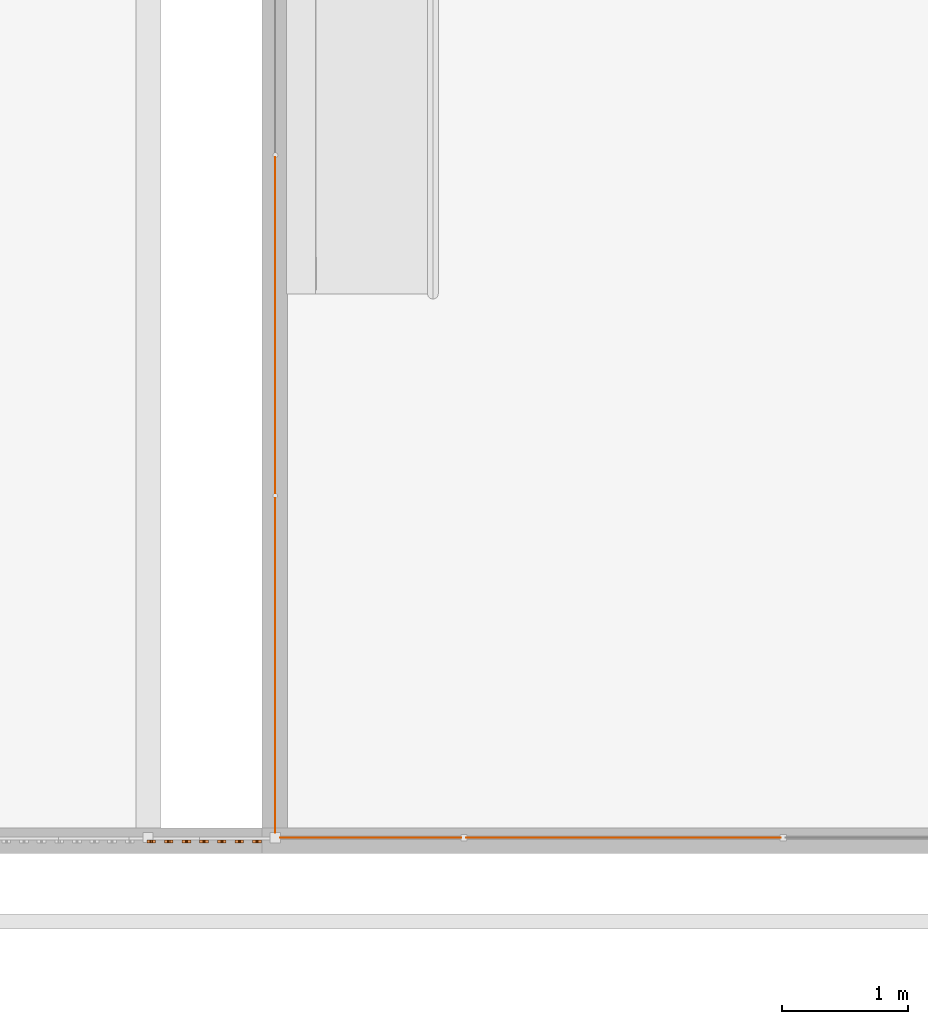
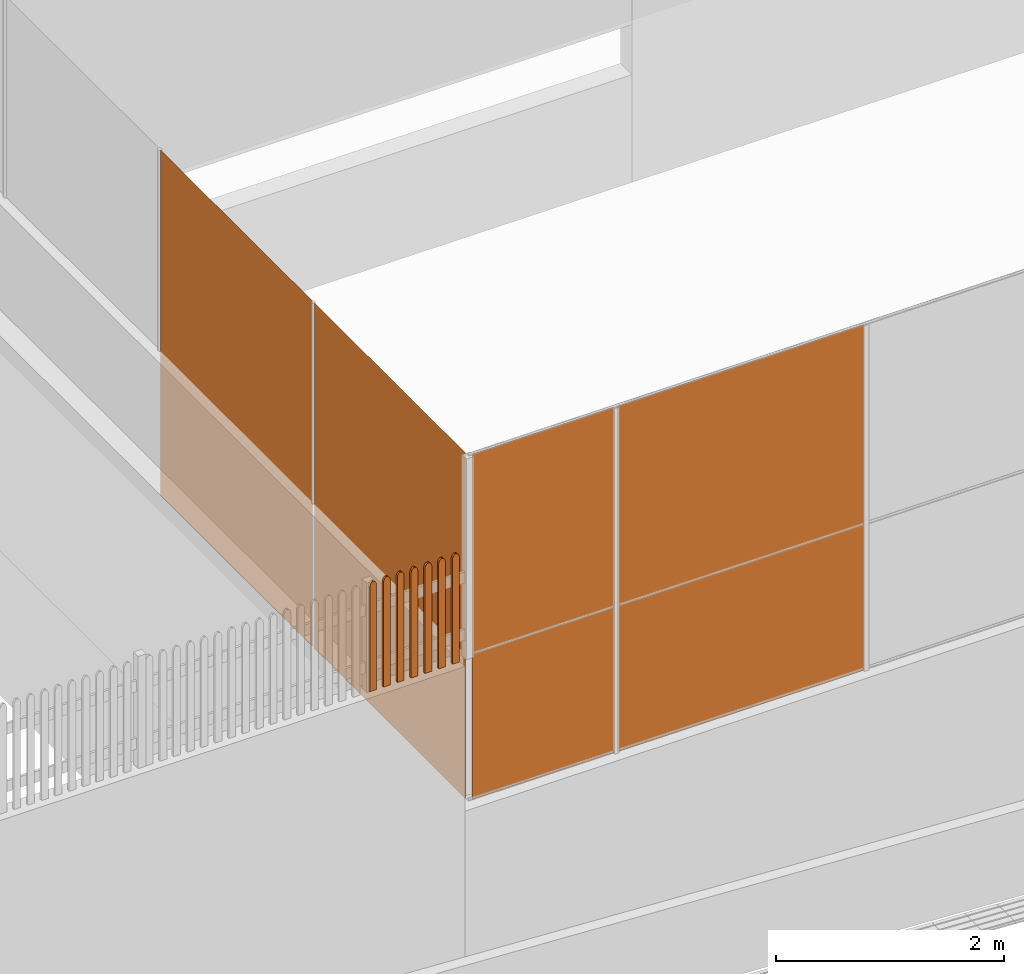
# One storey, part 210 of 237: 11 proxies.
"""IFC2X3 building model written with IfcOpenShell, lengths in millimetres."""

from ifc_helpers import new_model, entity, si_unit, converted_unit, derived_unit, money_unit, direction, frame, origin_with_axes, place, context, subcontext, project, spatial, open_shell, faceted_brep, surface_model, type_object, element, save


model = new_model("IFC2X3")

# Units and contexts
model_context = context("Model", 3, precision=0.01, world=origin_with_axes(), true_north=direction((0.0, 1.0)))
body_context = subcontext(model_context, "Body", "Model", "MODEL_VIEW")
ifc_project = project(units=[si_unit("LENGTHUNIT", "METRE", prefix="MILLI"), si_unit("AREAUNIT", "SQUARE_METRE"), si_unit("VOLUMEUNIT", "CUBIC_METRE"), converted_unit("PLANEANGLEUNIT", "DEGREE", entity("IfcPlaneAngleMeasure", 0.0174532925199), si_unit("PLANEANGLEUNIT", "RADIAN"), dimensions=[0, 0, 0, 0, 0, 0, 0]), money_unit("USD"), converted_unit("TIMEUNIT", "Year", entity("IfcTimeMeasure", 31556926.0), si_unit("TIMEUNIT", "SECOND"), dimensions=[0, 0, 1, 0, 0, 0, 0]), si_unit("MASSUNIT", "GRAM", prefix="KILO"), si_unit("THERMODYNAMICTEMPERATUREUNIT", "DEGREE_CELSIUS"), si_unit("LUMINOUSINTENSITYUNIT", "LUMEN"), si_unit("ENERGYUNIT", "JOULE", prefix="MEGA"), derived_unit("THERMALCONDUCTANCEUNIT", [(si_unit("POWERUNIT", "WATT"), 1), (si_unit("LENGTHUNIT", "METRE"), -1), (si_unit("THERMODYNAMICTEMPERATUREUNIT", "KELVIN"), -1)]), derived_unit("SPECIFICHEATCAPACITYUNIT", [(si_unit("ENERGYUNIT", "JOULE"), 1), (si_unit("MASSUNIT", "GRAM", prefix="KILO"), -1), (si_unit("THERMODYNAMICTEMPERATUREUNIT", "KELVIN"), -1)]), derived_unit("MASSDENSITYUNIT", [(si_unit("MASSUNIT", "GRAM", prefix="KILO"), 1), (si_unit("VOLUMEUNIT", "CUBIC_METRE"), -1)])], contexts=[model_context])

# Site, building, storey
site_placement = place(None, origin_with_axes())
site = spatial("IfcSite", under=ifc_project, at=site_placement, Name="Local", CompositionType="ELEMENT")
building_placement = place(site_placement, origin_with_axes())
building = spatial("IfcBuilding", under=site, at=building_placement, Name="Construção", CompositionType="ELEMENT")
storey_placement = place(building_placement, origin_with_axes())
storey = spatial("IfcBuildingStorey", under=building, at=storey_placement, Name="Pavimento Térreo", CompositionType="ELEMENT", Elevation=0.0)

# Proxies
building_element_proxy_type_1 = type_object("IfcBuildingElementProxyType", Name="Tela metalica1", PredefinedType="NOTDEFINED")
proxy_1_placement = place(storey_placement, frame((59580.0660646, 12435.5785795, -2721.89460916), z_axis=(0.0, 0.0, 1.0), x_axis=(0.974874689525, 0.222753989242, 0.0)))
element("IfcBuildingElementProxy", 1, at=proxy_1_placement, inside=storey, type_object=building_element_proxy_type_1, Name="Objeto-0044", context=body_context, shape_type="SurfaceModel", body=[
    surface_model("IfcShellBasedSurfaceModel", [(1397.91838141, 0.0, 3698.31684606), (0.0, 319.358611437, 3698.31684606), (0.0, 319.358611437, 0.0), (1397.91838141, 0.0, 0.0)], [open_shell([[[0, 1, 2, 3]]])]),
])
proxy_2_placement = place(storey_placement, frame((61105.7325919, 12204.8672655, -2726.37402835), z_axis=(0.0, 0.0, 1.0), x_axis=(0.974874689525, 0.222753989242, 0.0)))
element("IfcBuildingElementProxy", 2, at=proxy_2_placement, inside=storey, type_object=building_element_proxy_type_1, Name="Objeto-0044", context=body_context, shape_type="SurfaceModel", body=[
    surface_model("IfcShellBasedSurfaceModel", [(2425.90485323, 0.0, 3702.79626524), (0.0, 556.074761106, 3702.79626524), (0.0, 556.074761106, 0.0), (2425.90485323, 0.0, 0.0)], [open_shell([[[0, 1, 2, 3]]])]),
])
proxy_3_placement = place(storey_placement, frame((60048.5325599, 15605.1606258, -2721.89460916), z_axis=(0.0, 0.0, 1.0), x_axis=(-0.223510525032, 0.974701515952, 0.0)))
element("IfcBuildingElementProxy", 3, at=proxy_3_placement, inside=storey, type_object=building_element_proxy_type_1, Name="Objeto-0044", context=body_context, shape_type="SurfaceModel", body=[
    surface_model("IfcShellBasedSurfaceModel", [(2593.71356709, 0.0, 3698.31684606), (0.0, 594.769036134, 3698.31684606), (0.0, 594.769036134, 0.0), (2593.71356709, 0.0, 0.0)], [open_shell([[[0, 1, 2, 3]]])]),
])
proxy_4_placement = place(storey_placement, frame((60045.5816554, 12917.9920591, -2721.89460916), z_axis=(0.0, 0.0, 1.0), x_axis=(-0.223510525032, 0.974701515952, 0.0)))
element("IfcBuildingElementProxy", 4, at=proxy_4_placement, inside=storey, type_object=building_element_proxy_type_1, Name="Objeto-0044", context=body_context, shape_type="SurfaceModel", body=[
    surface_model("IfcShellBasedSurfaceModel", [(2580.51103657, 0.0, 3698.31684606), (0.0, 591.621112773, 3698.31684606), (0.0, 591.621112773, 0.0), (2580.51103657, 0.0, 0.0)], [open_shell([[[0, 1, 2, 3]]])]),
])
building_element_proxy_type_2 = type_object("IfcBuildingElementProxyType", Name="FALTA", PredefinedType="NOTDEFINED")
proxy_5_placement = place(storey_placement, frame((57193.9609857, 12705.6167027, -1173.86351895), z_axis=(0.0, 0.0, 1.0), x_axis=(1.0, 0.0, 0.0)))
element("IfcBuildingElementProxy", 5, at=proxy_5_placement, inside=storey, type_object=building_element_proxy_type_2, Name="Objeto-0044", context=body_context, shape_type="Brep", body=[
    faceted_brep([(1396.6166492, 0.0, 0.0), (1396.6166492, 0.0, 1122.55385596), (1396.6166492, 23.3007677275, 1122.55385596), (1396.6166492, 23.3007677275, 0.0), (1466.51895676, 0.0, 0.0), (1466.51895676, 0.0, 1122.55385596), (1464.11548242, 0.0, 1135.71018716), (1459.9737707, 0.0, 1147.58973535), (1454.31634394, 0.0, 1157.55996586), (1447.44378207, 0.0, 1165.08790963), (1439.7230722, 0.0, 1169.77139955), (1431.56780298, 0.0, 1171.36054535), (1423.41253376, 0.0, 1169.77139955), (1415.69182389, 0.0, 1165.08790963), (1408.81926202, 0.0, 1157.55996586), (1403.16183526, 0.0, 1147.58973535), (1399.02012354, 0.0, 1135.71018716), (1399.02012354, 23.3007677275, 1135.71018716), (1403.16183526, 23.3007677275, 1147.58973535), (1408.81926202, 23.3007677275, 1157.55996586), (1415.69182389, 23.3007677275, 1165.08790963), (1423.41253376, 23.3007677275, 1169.77139955), (1431.56780298, 23.3007677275, 1171.36054535), (1439.7230722, 23.3007677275, 1169.77139955), (1447.44378207, 23.3007677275, 1165.08790963), (1454.31634394, 23.3007677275, 1157.55996586), (1459.9737707, 23.3007677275, 1147.58973535), (1464.11548242, 23.3007677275, 1135.71018716), (1466.51895676, 23.3007677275, 1122.55385596), (1466.51895676, 23.3007677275, 0.0)], [[[0, 1, 2, 3]], [[1, 0, 4, 5, 6, 7, 8, 9, 10, 11, 12, 13, 14, 15, 16]], [[1, 16, 17, 2]], [[3, 2, 17, 18, 19, 20, 21, 22, 23, 24, 25, 26, 27, 28, 29]], [[0, 3, 29, 4]], [[5, 4, 29, 28]], [[6, 5, 28, 27]], [[7, 6, 27, 26]], [[25, 8, 7, 26]], [[9, 8, 25, 24]], [[10, 9, 24, 23]], [[22, 11, 10, 23]], [[12, 11, 22, 21]], [[13, 12, 21, 20]], [[14, 13, 20, 19]], [[15, 14, 19, 18]], [[16, 15, 18, 17]]]),
])
proxy_6_placement = place(storey_placement, frame((57193.9609857, 12705.6167027, -1173.86351895), z_axis=(0.0, 0.0, 1.0), x_axis=(1.0, 0.0, 0.0)))
element("IfcBuildingElementProxy", 6, at=proxy_6_placement, inside=storey, type_object=building_element_proxy_type_2, Name="Objeto-0044", context=body_context, shape_type="Brep", body=[
    faceted_brep([(2095.16322416, 0.0, 0.0), (2095.16322416, 0.0, 1122.55385596), (2095.16322416, 23.3007677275, 1122.55385596), (2095.16322416, 23.3007677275, 0.0), (2165.06553173, 0.0, 0.0), (2165.06553173, 0.0, 1122.55385596), (2162.66205739, 0.0, 1135.71018716), (2158.52034566, 0.0, 1147.58973535), (2152.8629189, 0.0, 1157.55996586), (2145.99035703, 0.0, 1165.08790963), (2138.26964716, 0.0, 1169.77139955), (2130.11437794, 0.0, 1171.36054535), (2121.95910873, 0.0, 1169.77139955), (2114.23839886, 0.0, 1165.08790963), (2107.36583698, 0.0, 1157.55996586), (2101.70841022, 0.0, 1147.58973535), (2097.5666985, 0.0, 1135.71018716), (2097.5666985, 23.3007677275, 1135.71018716), (2101.70841022, 23.3007677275, 1147.58973535), (2107.36583698, 23.3007677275, 1157.55996586), (2114.23839886, 23.3007677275, 1165.08790963), (2121.95910873, 23.3007677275, 1169.77139955), (2130.11437794, 23.3007677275, 1171.36054535), (2138.26964716, 23.3007677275, 1169.77139955), (2145.99035703, 23.3007677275, 1165.08790963), (2152.8629189, 23.3007677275, 1157.55996586), (2158.52034566, 23.3007677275, 1147.58973535), (2162.66205739, 23.3007677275, 1135.71018716), (2165.06553173, 23.3007677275, 1122.55385596), (2165.06553173, 23.3007677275, 0.0)], [[[0, 1, 2, 3]], [[1, 0, 4, 5, 6, 7, 8, 9, 10, 11, 12, 13, 14, 15, 16]], [[1, 16, 17, 2]], [[3, 2, 17, 18, 19, 20, 21, 22, 23, 24, 25, 26, 27, 28, 29]], [[0, 3, 29, 4]], [[5, 4, 29, 28]], [[6, 5, 28, 27]], [[7, 6, 27, 26]], [[25, 8, 7, 26]], [[9, 8, 25, 24]], [[10, 9, 24, 23]], [[22, 11, 10, 23]], [[12, 11, 22, 21]], [[13, 12, 21, 20]], [[14, 13, 20, 19]], [[15, 14, 19, 18]], [[16, 15, 18, 17]]]),
])
proxy_7_placement = place(storey_placement, frame((57193.9609857, 12705.6167027, -1173.86351895), z_axis=(0.0, 0.0, 1.0), x_axis=(1.0, 0.0, 0.0)))
element("IfcBuildingElementProxy", 7, at=proxy_7_placement, inside=storey, type_object=building_element_proxy_type_2, Name="Objeto-0044", context=body_context, shape_type="Brep", body=[
    faceted_brep([(1258.05746017, 0.0, 0.0), (1258.05746017, 0.0, 1122.55385596), (1258.05746017, 23.3007677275, 1122.55385596), (1258.05746017, 23.3007677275, 0.0), (1327.95976774, 0.0, 0.0), (1327.95976774, 0.0, 1122.55385596), (1325.5562934, 0.0, 1135.71018716), (1321.41458167, 0.0, 1147.58973535), (1315.75715491, 0.0, 1157.55996586), (1308.88459304, 0.0, 1165.08790963), (1301.16388317, 0.0, 1169.77139955), (1293.00861395, 0.0, 1171.36054535), (1284.85334474, 0.0, 1169.77139955), (1277.13263487, 0.0, 1165.08790963), (1270.26007299, 0.0, 1157.55996586), (1264.60264624, 0.0, 1147.58973535), (1260.46093451, 0.0, 1135.71018716), (1260.46093451, 23.3007677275, 1135.71018716), (1264.60264624, 23.3007677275, 1147.58973535), (1270.26007299, 23.3007677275, 1157.55996586), (1277.13263487, 23.3007677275, 1165.08790963), (1284.85334474, 23.3007677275, 1169.77139955), (1293.00861395, 23.3007677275, 1171.36054535), (1301.16388317, 23.3007677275, 1169.77139955), (1308.88459304, 23.3007677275, 1165.08790963), (1315.75715491, 23.3007677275, 1157.55996586), (1321.41458167, 23.3007677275, 1147.58973535), (1325.5562934, 23.3007677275, 1135.71018716), (1327.95976774, 23.3007677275, 1122.55385596), (1327.95976774, 23.3007677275, 0.0)], [[[0, 1, 2, 3]], [[1, 0, 4, 5, 6, 7, 8, 9, 10, 11, 12, 13, 14, 15, 16]], [[1, 16, 17, 2]], [[3, 2, 17, 18, 19, 20, 21, 22, 23, 24, 25, 26, 27, 28, 29]], [[0, 3, 29, 4]], [[5, 4, 29, 28]], [[6, 5, 28, 27]], [[7, 6, 27, 26]], [[25, 8, 7, 26]], [[9, 8, 25, 24]], [[10, 9, 24, 23]], [[22, 11, 10, 23]], [[12, 11, 22, 21]], [[13, 12, 21, 20]], [[14, 13, 20, 19]], [[15, 14, 19, 18]], [[16, 15, 18, 17]]]),
])
proxy_8_placement = place(storey_placement, frame((57193.9609857, 12705.6167027, -1173.86351895), z_axis=(0.0, 0.0, 1.0), x_axis=(1.0, 0.0, 0.0)))
element("IfcBuildingElementProxy", 8, at=proxy_8_placement, inside=storey, type_object=building_element_proxy_type_2, Name="Objeto-0044", context=body_context, shape_type="Brep", body=[
    faceted_brep([(1816.79941999, 0.0, 0.0), (1816.79941999, 0.0, 1122.55385596), (1816.79941999, 23.3007677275, 1122.55385596), (1816.79941999, 23.3007677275, 0.0), (1886.70172756, 0.0, 0.0), (1886.70172756, 0.0, 1122.55385596), (1884.29825322, 0.0, 1135.71018716), (1880.1565415, 0.0, 1147.58973535), (1874.49911474, 0.0, 1157.55996586), (1867.62655287, 0.0, 1165.08790963), (1859.905843, 0.0, 1169.77139955), (1851.75057378, 0.0, 1171.36054535), (1843.59530456, 0.0, 1169.77139955), (1835.87459469, 0.0, 1165.08790963), (1829.00203282, 0.0, 1157.55996586), (1823.34460606, 0.0, 1147.58973535), (1819.20289434, 0.0, 1135.71018716), (1819.20289434, 23.3007677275, 1135.71018716), (1823.34460606, 23.3007677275, 1147.58973535), (1829.00203282, 23.3007677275, 1157.55996586), (1835.87459469, 23.3007677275, 1165.08790963), (1843.59530456, 23.3007677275, 1169.77139955), (1851.75057378, 23.3007677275, 1171.36054535), (1859.905843, 23.3007677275, 1169.77139955), (1867.62655287, 23.3007677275, 1165.08790963), (1874.49911474, 23.3007677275, 1157.55996586), (1880.1565415, 23.3007677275, 1147.58973535), (1884.29825322, 23.3007677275, 1135.71018716), (1886.70172756, 23.3007677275, 1122.55385596), (1886.70172756, 23.3007677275, 0.0)], [[[0, 1, 2, 3]], [[1, 0, 4, 5, 6, 7, 8, 9, 10, 11, 12, 13, 14, 15, 16]], [[1, 16, 17, 2]], [[3, 2, 17, 18, 19, 20, 21, 22, 23, 24, 25, 26, 27, 28, 29]], [[0, 3, 29, 4]], [[5, 4, 29, 28]], [[6, 5, 28, 27]], [[7, 6, 27, 26]], [[25, 8, 7, 26]], [[9, 8, 25, 24]], [[10, 9, 24, 23]], [[22, 11, 10, 23]], [[22, 21, 12, 11]], [[13, 12, 21, 20]], [[14, 13, 20, 19]], [[15, 14, 19, 18]], [[16, 15, 18, 17]]]),
])
proxy_9_placement = place(storey_placement, frame((57193.9609857, 12705.6167027, -1173.86351895), z_axis=(0.0, 0.0, 1.0), x_axis=(1.0, 0.0, 0.0)))
element("IfcBuildingElementProxy", 9, at=proxy_9_placement, inside=storey, type_object=building_element_proxy_type_2, Name="Objeto-0044", context=body_context, shape_type="Brep", body=[
    faceted_brep([(1955.35860902, 0.0, 0.0), (1955.35860902, 0.0, 1122.55385596), (1955.35860902, 23.3007677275, 1122.55385596), (1955.35860902, 23.3007677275, 0.0), (2025.26091659, 0.0, 0.0), (2025.26091659, 0.0, 1122.55385596), (2022.85744225, 0.0, 1135.71018716), (2018.71573052, 0.0, 1147.58973535), (2013.05830376, 0.0, 1157.55996586), (2006.18574189, 0.0, 1165.08790963), (1998.46503202, 0.0, 1169.77139955), (1990.3097628, 0.0, 1171.36054535), (1982.15449359, 0.0, 1169.77139955), (1974.43378372, 0.0, 1165.08790963), (1967.56122184, 0.0, 1157.55996586), (1961.90379509, 0.0, 1147.58973535), (1957.76208336, 0.0, 1135.71018716), (1957.76208336, 23.3007677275, 1135.71018716), (1961.90379509, 23.3007677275, 1147.58973535), (1967.56122184, 23.3007677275, 1157.55996586), (1974.43378372, 23.3007677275, 1165.08790963), (1982.15449359, 23.3007677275, 1169.77139955), (1990.3097628, 23.3007677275, 1171.36054535), (1998.46503202, 23.3007677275, 1169.77139955), (2006.18574189, 23.3007677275, 1165.08790963), (2013.05830376, 23.3007677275, 1157.55996586), (2018.71573052, 23.3007677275, 1147.58973535), (2022.85744225, 23.3007677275, 1135.71018716), (2025.26091659, 23.3007677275, 1122.55385596), (2025.26091659, 23.3007677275, 0.0)], [[[0, 1, 2, 3]], [[1, 0, 4, 5, 6, 7, 8, 9, 10, 11, 12, 13, 14, 15, 16]], [[1, 16, 17, 2]], [[3, 2, 17, 18, 19, 20, 21, 22, 23, 24, 25, 26, 27, 28, 29]], [[0, 3, 29, 4]], [[5, 4, 29, 28]], [[6, 5, 28, 27]], [[7, 6, 27, 26]], [[25, 8, 7, 26]], [[9, 8, 25, 24]], [[10, 9, 24, 23]], [[22, 11, 10, 23]], [[22, 21, 12, 11]], [[13, 12, 21, 20]], [[14, 13, 20, 19]], [[15, 14, 19, 18]], [[16, 15, 18, 17]]]),
])
proxy_10_placement = place(storey_placement, frame((57193.9609857, 12705.6167027, -1173.86351895), z_axis=(0.0, 0.0, 1.0), x_axis=(1.0, 0.0, 0.0)))
element("IfcBuildingElementProxy", 10, at=proxy_10_placement, inside=storey, type_object=building_element_proxy_type_2, Name="Objeto-0044", context=body_context, shape_type="Brep", body=[
    faceted_brep([(1676.22587947, 0.0, 0.0), (1676.22587947, 0.0, 1122.55385596), (1676.22587947, 23.3007677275, 1122.55385596), (1676.22587947, 23.3007677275, 0.0), (1746.12818704, 0.0, 0.0), (1746.12818704, 0.0, 1122.55385596), (1743.7247127, 0.0, 1135.71018716), (1739.58300098, 0.0, 1147.58973535), (1733.92557422, 0.0, 1157.55996586), (1727.05301234, 0.0, 1165.08790963), (1719.33230247, 0.0, 1169.77139955), (1711.17703326, 0.0, 1171.36054535), (1703.02176404, 0.0, 1169.77139955), (1695.30105417, 0.0, 1165.08790963), (1688.4284923, 0.0, 1157.55996586), (1682.77106554, 0.0, 1147.58973535), (1678.62935381, 0.0, 1135.71018716), (1678.62935381, 23.3007677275, 1135.71018716), (1682.77106554, 23.3007677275, 1147.58973535), (1688.4284923, 23.3007677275, 1157.55996586), (1695.30105417, 23.3007677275, 1165.08790963), (1703.02176404, 23.3007677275, 1169.77139955), (1711.17703326, 23.3007677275, 1171.36054535), (1719.33230247, 23.3007677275, 1169.77139955), (1727.05301234, 23.3007677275, 1165.08790963), (1733.92557422, 23.3007677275, 1157.55996586), (1739.58300098, 23.3007677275, 1147.58973535), (1743.7247127, 23.3007677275, 1135.71018716), (1746.12818704, 23.3007677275, 1122.55385596), (1746.12818704, 23.3007677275, 0.0)], [[[0, 1, 2, 3]], [[1, 0, 4, 5, 6, 7, 8, 9, 10, 11, 12, 13, 14, 15, 16]], [[1, 16, 17, 2]], [[3, 2, 17, 18, 19, 20, 21, 22, 23, 24, 25, 26, 27, 28, 29]], [[0, 3, 29, 4]], [[5, 4, 29, 28]], [[6, 5, 28, 27]], [[7, 6, 27, 26]], [[25, 8, 7, 26]], [[9, 8, 25, 24]], [[10, 9, 24, 23]], [[22, 11, 10, 23]], [[12, 11, 22, 21]], [[13, 12, 21, 20]], [[14, 13, 20, 19]], [[15, 14, 19, 18]], [[16, 15, 18, 17]]]),
])
proxy_11_placement = place(storey_placement, frame((57193.9609857, 12705.6167027, -1173.86351895), z_axis=(0.0, 0.0, 1.0), x_axis=(1.0, 0.0, 0.0)))
element("IfcBuildingElementProxy", 11, at=proxy_11_placement, inside=storey, type_object=building_element_proxy_type_2, Name="Objeto-0044", context=body_context, shape_type="Brep", body=[
    faceted_brep([(1536.42126433, 0.0, 0.0), (1536.42126433, 0.0, 1122.55385596), (1536.42126433, 23.3007677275, 1122.55385596), (1536.42126433, 23.3007677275, 0.0), (1606.3235719, 0.0, 0.0), (1606.3235719, 0.0, 1122.55385596), (1603.92009756, 0.0, 1135.71018716), (1599.77838584, 0.0, 1147.58973535), (1594.12095908, 0.0, 1157.55996586), (1587.24839721, 0.0, 1165.08790963), (1579.52768734, 0.0, 1169.77139955), (1571.37241812, 0.0, 1171.36054535), (1563.2171489, 0.0, 1169.77139955), (1555.49643903, 0.0, 1165.08790963), (1548.62387716, 0.0, 1157.55996586), (1542.9664504, 0.0, 1147.58973535), (1538.82473868, 0.0, 1135.71018716), (1538.82473868, 23.3007677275, 1135.71018716), (1542.9664504, 23.3007677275, 1147.58973535), (1548.62387716, 23.3007677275, 1157.55996586), (1555.49643903, 23.3007677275, 1165.08790963), (1563.2171489, 23.3007677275, 1169.77139955), (1571.37241812, 23.3007677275, 1171.36054535), (1579.52768734, 23.3007677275, 1169.77139955), (1587.24839721, 23.3007677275, 1165.08790963), (1594.12095908, 23.3007677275, 1157.55996586), (1599.77838584, 23.3007677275, 1147.58973535), (1603.92009756, 23.3007677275, 1135.71018716), (1606.3235719, 23.3007677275, 1122.55385596), (1606.3235719, 23.3007677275, 0.0)], [[[0, 1, 2, 3]], [[1, 0, 4, 5, 6, 7, 8, 9, 10, 11, 12, 13, 14, 15, 16]], [[1, 16, 17, 2]], [[3, 2, 17, 18, 19, 20, 21, 22, 23, 24, 25, 26, 27, 28, 29]], [[0, 3, 29, 4]], [[5, 4, 29, 28]], [[6, 5, 28, 27]], [[7, 6, 27, 26]], [[25, 8, 7, 26]], [[9, 8, 25, 24]], [[10, 9, 24, 23]], [[11, 10, 23, 22]], [[22, 21, 12, 11]], [[13, 12, 21, 20]], [[14, 13, 20, 19]], [[15, 14, 19, 18]], [[16, 15, 18, 17]]]),
])

save(model, "model.ifc")
